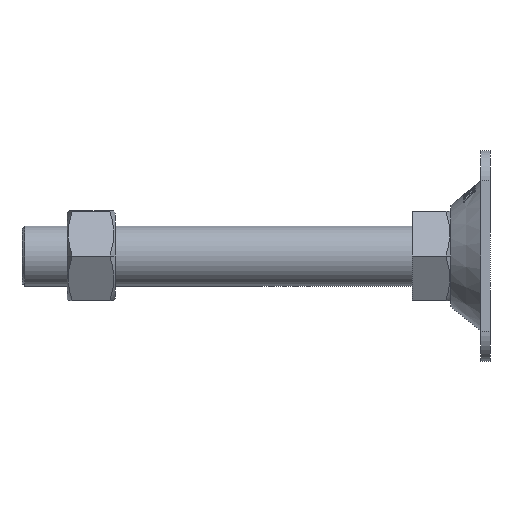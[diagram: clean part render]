
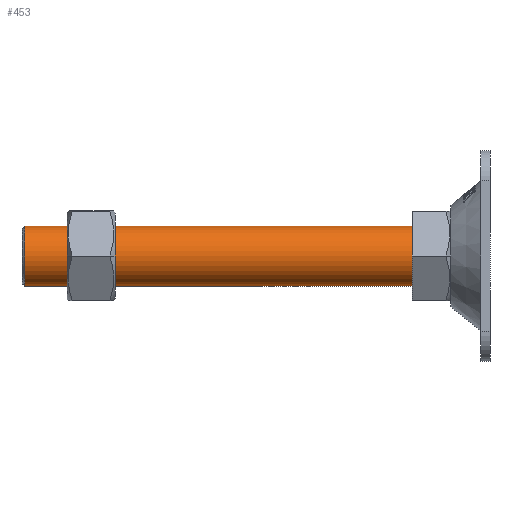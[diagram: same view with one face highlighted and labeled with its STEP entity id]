
A CAD part, left-side view. The second image highlights one B-rep face of the part: STEP entity #453.
In plain terms, the highlighted cylindrical face has radius 10 mm (diameter 20 mm), a partial arc.
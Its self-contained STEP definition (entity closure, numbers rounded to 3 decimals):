
#198 = DIRECTION ( 'NONE',  ( 0., 0., 1. ) ) ;
#302 = CARTESIAN_POINT ( 'NONE',  ( 0., 13., 0. ) ) ;
#337 = EDGE_CURVE ( 'NONE', #2815, #933, #1833, .T. ) ;
#339 = CYLINDRICAL_SURFACE ( 'NONE', #3791, 10. ) ;
#453 = ADVANCED_FACE ( 'NONE', ( #5090 ), #339, .T. ) ;
#700 = EDGE_CURVE ( 'NONE', #5486, #2815, #1020, .T. ) ;
#933 = VERTEX_POINT ( 'NONE', #2203 ) ;
#1020 = CIRCLE ( 'NONE', #2101, 10. ) ;
#1368 = DIRECTION ( 'NONE',  ( 0., -1., 0. ) ) ;
#1458 = DIRECTION ( 'NONE',  ( 0., -1., 0. ) ) ;
#1603 = LINE ( 'NONE', #5438, #2375 ) ;
#1632 = DIRECTION ( 'NONE',  ( 0., -1., 0. ) ) ;
#1732 = CARTESIAN_POINT ( 'NONE',  ( 0., 142., 10. ) ) ;
#1750 = DIRECTION ( 'NONE',  ( 0., 0., -1. ) ) ;
#1833 = LINE ( 'NONE', #3746, #4371 ) ;
#2101 = AXIS2_PLACEMENT_3D ( 'NONE', #5698, #1458, #3343 ) ;
#2203 = CARTESIAN_POINT ( 'NONE',  ( 0., 13., -10. ) ) ;
#2375 = VECTOR ( 'NONE', #3485, 1000. ) ;
#2658 = EDGE_LOOP ( 'NONE', ( #5104, #5808, #5111, #4087 ) ) ;
#2670 = DIRECTION ( 'NONE',  ( 0., 1., 0. ) ) ;
#2815 = VERTEX_POINT ( 'NONE', #4596 ) ;
#3117 = EDGE_CURVE ( 'NONE', #5486, #5076, #1603, .T. ) ;
#3343 = DIRECTION ( 'NONE',  ( 0., 0., -1. ) ) ;
#3485 = DIRECTION ( 'NONE',  ( 0., -1., 0. ) ) ;
#3746 = CARTESIAN_POINT ( 'NONE',  ( 0., 11., -10. ) ) ;
#3791 = AXIS2_PLACEMENT_3D ( 'NONE', #5992, #1632, #1750 ) ;
#3816 = CARTESIAN_POINT ( 'NONE',  ( 0., 13., 10. ) ) ;
#4087 = ORIENTED_EDGE ( 'NONE', *, *, #5958, .T. ) ;
#4371 = VECTOR ( 'NONE', #1368, 1000. ) ;
#4596 = CARTESIAN_POINT ( 'NONE',  ( 0., 142., -10. ) ) ;
#5076 = VERTEX_POINT ( 'NONE', #3816 ) ;
#5090 = FACE_OUTER_BOUND ( 'NONE', #2658, .T. ) ;
#5104 = ORIENTED_EDGE ( 'NONE', *, *, #3117, .F. ) ;
#5111 = ORIENTED_EDGE ( 'NONE', *, *, #337, .T. ) ;
#5438 = CARTESIAN_POINT ( 'NONE',  ( 0., 11., 10. ) ) ;
#5486 = VERTEX_POINT ( 'NONE', #1732 ) ;
#5557 = AXIS2_PLACEMENT_3D ( 'NONE', #302, #2670, #198 ) ;
#5698 = CARTESIAN_POINT ( 'NONE',  ( 0., 142., 0. ) ) ;
#5808 = ORIENTED_EDGE ( 'NONE', *, *, #700, .T. ) ;
#5849 = CIRCLE ( 'NONE', #5557, 10. ) ;
#5958 = EDGE_CURVE ( 'NONE', #933, #5076, #5849, .T. ) ;
#5992 = CARTESIAN_POINT ( 'NONE',  ( 0., 11., 0. ) ) ;
